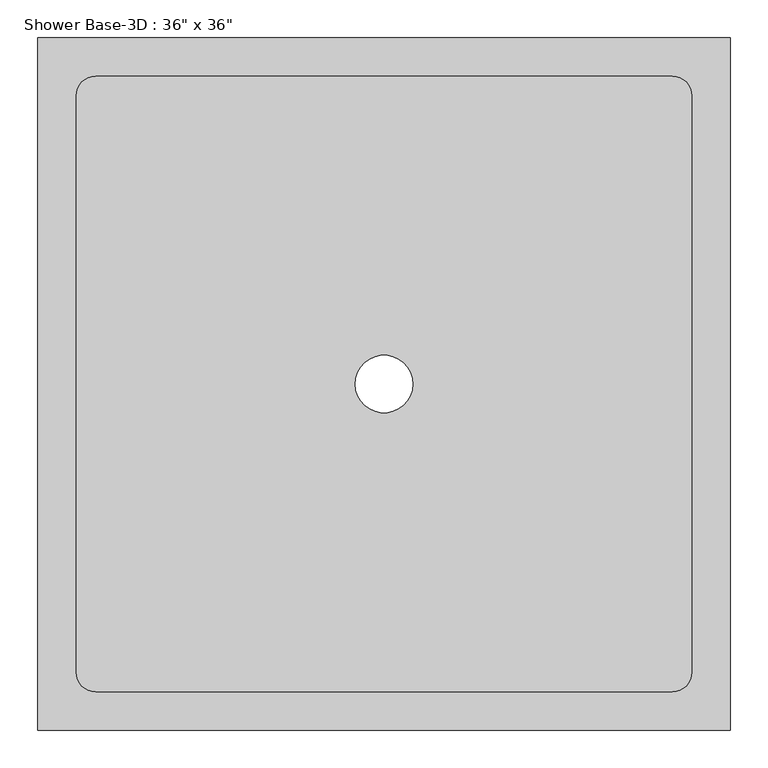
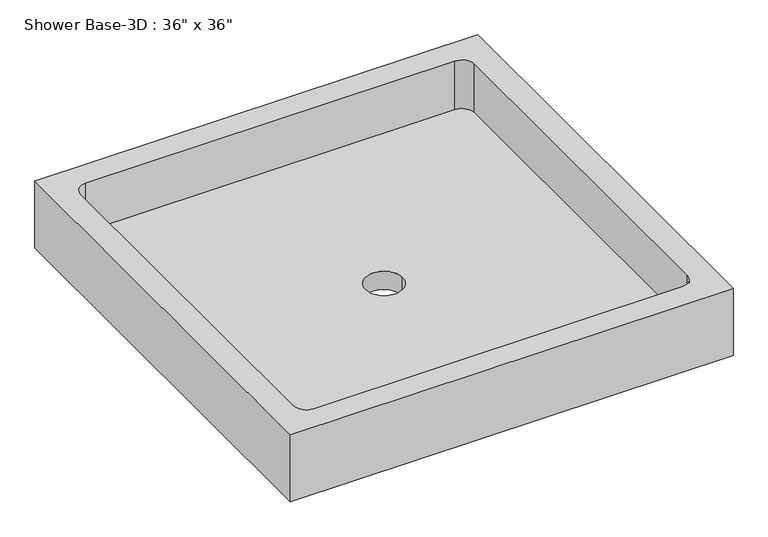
"""IFC4 building model written with IfcOpenShell, lengths in millimetres: flow terminal geometry."""

from ifc_helpers import new_model, si_unit, frame, origin, origin_with_axes, place, context, project, spatial, polyline, circle_curve, source, transform, mapped, element, save
from ifc_brep_helpers import plane_surface, revolved_surface, advanced_brep


def flow_terminal_54cced83(model_context):
    return source(origin(), model_context, "Body", "AdvancedBrep", [
        advanced_brep(
        [(457.2, 457.2, 146.05), (-457.2, 457.2, 146.05), (-457.2, -457.2, 146.05), (457.2, -457.2, 146.05), (406.4, -381.0, 146.05), (381.0, -406.4, 146.05), (-381.0, -406.4, 146.05), (-406.4, -381.0, 146.05), (-406.4, 381.0, 146.05), (-381.0, 406.4, 146.05), (381.0, 406.4, 146.05), (406.4, 381.0, 146.05), (457.2, 457.2, 0.0), (457.2, -457.2, 0.0), (-457.2, -457.2, 0.0), (-457.2, 457.2, 0.0), (-38.1, 0.0, 0.0), (38.1, 0.0, 0.0), (381.0, -406.4, 39.8652193), (406.4, -381.0, 39.8652193), (406.4, 381.0, 39.8652193), (381.0, 406.4, 39.8652193), (-381.0, 406.4, 39.8652193), (-406.4, 381.0, 39.8652193), (-406.4, -381.0, 39.8652193), (-381.0, -406.4, 39.8652193), (38.1, 0.0, 39.8652193), (-38.1, 0.0, 39.8652193)],
        [
            (0, 1),
            (1, 2),
            (2, 3),
            (3, 0),
            (4, 5, circle_curve(frame((381.0, -381.0, 146.05), z_axis=(0.0, 0.0, -1.0), x_axis=(1.0, 0.0, 0.0)), 25.4)),
            (5, 6),
            (6, 7, circle_curve(frame((-381.0, -381.0, 146.05), z_axis=(0.0, 0.0, -1.0), x_axis=(1.0, 0.0, 0.0)), 25.4)),
            (7, 8),
            (8, 9, circle_curve(frame((-381.0, 381.0, 146.05), z_axis=(0.0, 0.0, -1.0), x_axis=(1.0, 0.0, 0.0)), 25.4)),
            (9, 10),
            (10, 11, circle_curve(frame((381.0, 381.0, 146.05), z_axis=(0.0, 0.0, -1.0), x_axis=(1.0, 0.0, 0.0)), 25.4)),
            (11, 4),
            (12, 13),
            (13, 14),
            (14, 15),
            (15, 12),
            (16, 17, circle_curve(origin_with_axes(), 38.1)),
            (17, 16, circle_curve(origin_with_axes(), 38.1)),
            (0, 12),
            (15, 1),
            (14, 2),
            (13, 3),
            (18, 19, circle_curve(frame((381.0, -381.0, 39.8652193), z_axis=(0.0, 0.0, 1.0), x_axis=(1.0, 0.0, 0.0)), 25.4)),
            (19, 20),
            (20, 21, circle_curve(frame((381.0, 381.0, 39.8652193), z_axis=(0.0, 0.0, 1.0), x_axis=(1.0, 0.0, 0.0)), 25.4)),
            (21, 22),
            (22, 23, circle_curve(frame((-381.0, 381.0, 39.8652193), z_axis=(0.0, 0.0, 1.0), x_axis=(1.0, 0.0, 0.0)), 25.4)),
            (23, 24),
            (24, 25, circle_curve(frame((-381.0, -381.0, 39.8652193), z_axis=(0.0, 0.0, 1.0), x_axis=(1.0, 0.0, 0.0)), 25.4)),
            (25, 18),
            (26, 27, circle_curve(frame((0.0, 0.0, 39.8652193), z_axis=(0.0, 0.0, -1.0), x_axis=(1.0, 0.0, 0.0)), 38.1)),
            (27, 26, circle_curve(frame((0.0, 0.0, 39.8652193), z_axis=(0.0, 0.0, -1.0), x_axis=(1.0, 0.0, 0.0)), 38.1)),
            (18, 5),
            (4, 19),
            (11, 20),
            (10, 21),
            (9, 22),
            (8, 23),
            (7, 24),
            (6, 25),
            (16, 27),
            (26, 17),
        ],
        [
            plane_surface(frame((-457.2, 457.2, 146.05), z_axis=(0.0, 0.0, 1.0), x_axis=(-1.0, 0.0, 0.0))),
            plane_surface(frame((-457.2, 457.2, 0.0), z_axis=(0.0, 0.0, -1.0), x_axis=(1.0, 0.0, 0.0))),
            plane_surface(frame((457.2, 457.2, 146.05), z_axis=(0.0, 1.0, 0.0), x_axis=(0.0, 0.0, -1.0))),
            plane_surface(frame((-457.2, 457.2, 146.05), z_axis=(-1.0, 0.0, 0.0), x_axis=(0.0, 0.0, -1.0))),
            plane_surface(frame((-457.2, -457.2, 146.05), z_axis=(0.0, -1.0, 0.0), x_axis=(0.0, 0.0, -1.0))),
            plane_surface(frame((457.2, -457.2, 146.05), z_axis=(1.0, 0.0, 0.0), x_axis=(0.0, 0.0, -1.0))),
            plane_surface(frame((406.4, -381.0, 39.8652193), z_axis=(0.0, 0.0, 1.0), x_axis=(0.0, -1.0, 0.0))),
            revolved_surface(polyline([(406.4, -381.0, 146.05), (406.4, -381.0, 39.8652193)]), (381.0, -381.0, 39.8652193), (0.0, 0.0, 1.0)),
            plane_surface(frame((406.4, -381.0, 146.05), z_axis=(-1.0, 0.0, 0.0), x_axis=(0.0, 0.0, -1.0))),
            revolved_surface(polyline([(406.4, 381.0, 146.05), (406.4, 381.0, 39.8652193)]), (381.0, 381.0, 39.8652193), (0.0, 0.0, 1.0)),
            plane_surface(frame((381.0, 406.4, 146.05), z_axis=(0.0, -1.0, 0.0), x_axis=(0.0, 0.0, -1.0))),
            revolved_surface(polyline([(-355.6, 381.0, 146.05), (-355.6, 381.0, 39.8652193)]), (-381.0, 381.0, 39.8652193), (0.0, 0.0, 1.0)),
            plane_surface(frame((-406.4, 381.0, 146.05), z_axis=(1.0, 0.0, 0.0), x_axis=(0.0, 0.0, -1.0))),
            revolved_surface(polyline([(-355.6, -381.0, 146.05), (-355.6, -381.0, 39.8652193)]), (-381.0, -381.0, 39.8652193), (0.0, 0.0, 1.0)),
            plane_surface(frame((-381.0, -406.4, 146.05), z_axis=(0.0, 1.0, 0.0), x_axis=(0.0, 0.0, -1.0))),
            revolved_surface(polyline([(38.1, 0.0, 39.8652193), (38.1, 0.0, 0.0)]), (0.0, 0.0, 0.0), (0.0, 0.0, 1.0)),
        ],
        [
            (0, [[1, 2, 3, 4], [5, 6, 7, 8, 9, 10, 11, 12]]),
            (1, [[13, 14, 15, 16], [17, 18]]),
            (2, [[-1, 19, -16, 20]]),
            (3, [[-2, -20, -15, 21]]),
            (4, [[-3, -21, -14, 22]]),
            (5, [[-4, -22, -13, -19]]),
            (6, [[23, 24, 25, 26, 27, 28, 29, 30], [31, 32]]),
            (7, [[-23, 33, -5, 34]]),
            (8, [[-24, -34, -12, 35]]),
            (9, [[-25, -35, -11, 36]]),
            (10, [[-26, -36, -10, 37]]),
            (11, [[-27, -37, -9, 38]]),
            (12, [[-28, -38, -8, 39]]),
            (13, [[-29, -39, -7, 40]]),
            (14, [[-30, -40, -6, -33]]),
            (15, [[41, -31, 42, -17]]),
            (15, [[-41, -18, -42, -32]]),
        ],
    ),
    ])


if __name__ == "__main__":
    model = new_model("IFC4")
    model_context = context("Model", 3, world=origin())
    ifc_project = project(units=[si_unit("LENGTHUNIT", "METRE", prefix="MILLI")], contexts=[model_context])
    site = spatial("IfcSite", under=ifc_project)
    building = spatial("IfcBuilding", under=site)
    placement = place(None, origin())
    flow_terminal_shape = flow_terminal_54cced83(model_context)
    element("IfcFlowTerminal", 1, ObjectType="Shower Base-3D : 36\" x 36\"", at=placement, inside=building, context=model_context, shape_type="MappedRepresentation", body=[
        mapped(flow_terminal_shape, transform((0.0, 0.0, 0.0), x_axis=(1.0, 0.0, 0.0), y_axis=(0.0, 1.0, 0.0), z_axis=(0.0, 0.0, 1.0))),
    ])
    save(model, "model.ifc")
